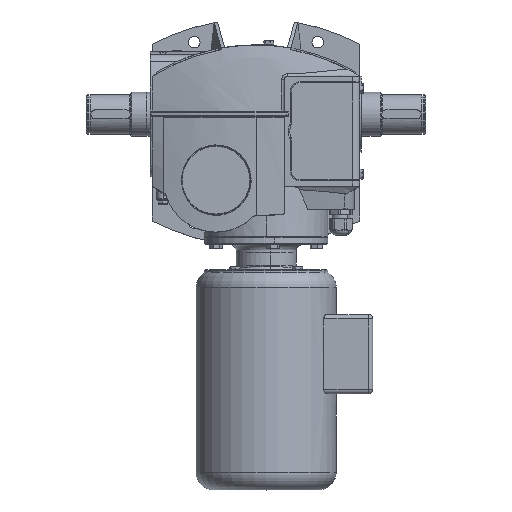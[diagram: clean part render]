
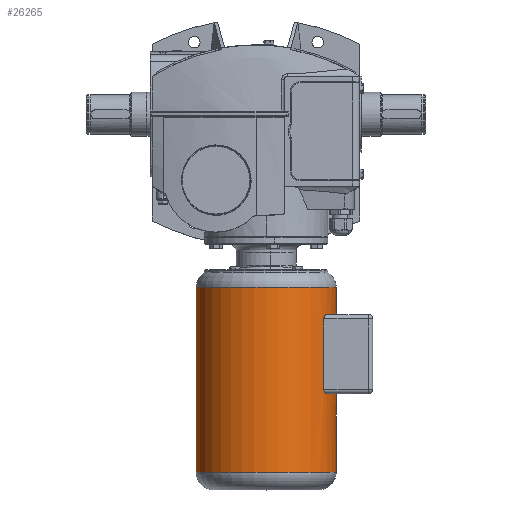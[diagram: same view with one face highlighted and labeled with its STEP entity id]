
A CAD part, top view. The second image highlights one B-rep face of the part: STEP entity #26265.
In plain terms, the highlighted cylindrical face has radius 79.5 mm (diameter 159 mm), a partial arc.
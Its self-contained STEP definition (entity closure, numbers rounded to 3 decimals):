
#683 = CARTESIAN_POINT ( 'NONE',  ( -42.088, -177.554, 67.446 ) ) ;
#1109 = CARTESIAN_POINT ( 'NONE',  ( -45., -173.362, 65.538 ) ) ;
#1932 = CARTESIAN_POINT ( 'NONE',  ( 0., -88., 79.5 ) ) ;
#3305 = CIRCLE ( 'NONE', #13877, 79.5 ) ;
#3784 = CARTESIAN_POINT ( 'NONE',  ( -43.161, -89.113, 66.764 ) ) ;
#5004 = CARTESIAN_POINT ( 'NONE',  ( -41.223, -88.112, 67.981 ) ) ;
#5530 = VERTEX_POINT ( 'NONE', #44265 ) ;
#6057 = CARTESIAN_POINT ( 'NONE',  ( -44.412, -175.377, 65.938 ) ) ;
#7287 = CARTESIAN_POINT ( 'NONE',  ( -43.85, -176.207, 66.313 ) ) ;
#7703 = CARTESIAN_POINT ( 'NONE',  ( -42.372, -177.413, 67.268 ) ) ;
#8349 = CARTESIAN_POINT ( 'NONE',  ( -45., -92.639, 65.538 ) ) ;
#9966 = CARTESIAN_POINT ( 'NONE',  ( -40.622, -88., 68.342 ) ) ;
#10944 = VERTEX_POINT ( 'NONE', #70942 ) ;
#10968 = AXIS2_PLACEMENT_3D ( 'NONE', #77953, #70540, #13978 ) ;
#10974 = DIRECTION ( 'NONE',  ( 0., 1., 0. ) ) ;
#11607 = CARTESIAN_POINT ( 'NONE',  ( -42.373, -88.588, 67.267 ) ) ;
#11639 = AXIS2_PLACEMENT_3D ( 'NONE', #13713, #58295, #38879 ) ;
#12353 = ORIENTED_EDGE ( 'NONE', *, *, #35220, .F. ) ;
#12607 = EDGE_CURVE ( 'NONE', #74780, #5530, #28949, .T. ) ;
#12655 = CARTESIAN_POINT ( 'NONE',  ( -42.904, -177.082, 66.93 ) ) ;
#12945 = DIRECTION ( 'NONE',  ( 0., -1., 0. ) ) ;
#13086 = CARTESIAN_POINT ( 'NONE',  ( -43.155, -176.892, 66.768 ) ) ;
#13314 = ORIENTED_EDGE ( 'NONE', *, *, #13897, .T. ) ;
#13713 = CARTESIAN_POINT ( 'NONE',  ( 0., 15., 0. ) ) ;
#13734 = VERTEX_POINT ( 'NONE', #43302 ) ;
#13877 = AXIS2_PLACEMENT_3D ( 'NONE', #50888, #12945, #71130 ) ;
#13897 = EDGE_CURVE ( 'NONE', #32319, #39780, #25961, .T. ) ;
#13978 = DIRECTION ( 'NONE',  ( 0., 0., 1. ) ) ;
#15643 = ORIENTED_EDGE ( 'NONE', *, *, #39740, .T. ) ;
#16118 = DIRECTION ( 'NONE',  ( 0., 1., 0. ) ) ;
#16991 = CARTESIAN_POINT ( 'NONE',  ( -44.692, -91.263, 65.749 ) ) ;
#17380 = CARTESIAN_POINT ( 'NONE',  ( -40., -88., 68.704 ) ) ;
#17405 = EDGE_CURVE ( 'NONE', #10944, #56323, #62777, .T. ) ;
#17750 = EDGE_LOOP ( 'NONE', ( #12353, #44378, #47821, #64694, #34236, #29152, #15643, #46835, #13314, #33569 ) ) ;
#19248 = CARTESIAN_POINT ( 'NONE',  ( -44.96, -173.723, 65.566 ) ) ;
#19371 = CARTESIAN_POINT ( 'NONE',  ( 0., -267., 79.5 ) ) ;
#19781 = DIRECTION ( 'NONE',  ( 0., 1., 0. ) ) ;
#21119 = FACE_OUTER_BOUND ( 'NONE', #17750, .T. ) ;
#21518 = VECTOR ( 'NONE', #38314, 1000. ) ;
#21754 = VECTOR ( 'NONE', #19781, 1000. ) ;
#22517 = CARTESIAN_POINT ( 'NONE',  ( 0., -267., 0. ) ) ;
#22613 = EDGE_CURVE ( 'NONE', #13734, #32319, #60197, .T. ) ;
#22743 = CARTESIAN_POINT ( 'NONE',  ( 0., -57.022, 79.5 ) ) ;
#22989 = DIRECTION ( 'NONE',  ( 0., 1., 0. ) ) ;
#23809 = LINE ( 'NONE', #79597, #71176 ) ;
#24102 = CARTESIAN_POINT ( 'NONE',  ( -45., 15., 65.538 ) ) ;
#24498 = DIRECTION ( 'NONE',  ( 0., 1., 0. ) ) ;
#24588 = AXIS2_PLACEMENT_3D ( 'NONE', #72673, #16118, #28895 ) ;
#25961 = LINE ( 'NONE', #32964, #21754 ) ;
#26222 = B_SPLINE_CURVE_WITH_KNOTS ( 'NONE', 3,
 ( #77299, #8349, #27720, #33498, #78116, #16991, #47495, #41716, #35553, #66952, #42131, #42525, #72717, #3784, #48311, #11607, #66527, #5004, #9966, #17380 ),
 .UNSPECIFIED., .F., .F.,
 ( 4, 2, 2, 2, 2, 2, 2, 2, 2, 4 ),
 ( 0., 0.001, 0.002, 0.002, 0.003, 0.003, 0.004, 0.005, 0.006, 0.009 ),
 .UNSPECIFIED. ) ;
#26258 = CARTESIAN_POINT ( 'NONE',  ( -44.81, -174.411, 65.668 ) ) ;
#26265 = ADVANCED_FACE ( 'NONE', ( #21119 ), #44649, .T. ) ;
#27720 = CARTESIAN_POINT ( 'NONE',  ( -44.961, -92.286, 65.565 ) ) ;
#28895 = DIRECTION ( 'NONE',  ( 0., 0., -1. ) ) ;
#28949 = B_SPLINE_CURVE_WITH_KNOTS ( 'NONE', 3,
 ( #81225, #75809, #50615, #683, #7703, #12655, #13086, #37414, #7287, #76237, #6057, #38243, #26258, #19248, #1109, #44411 ),
 .UNSPECIFIED., .F., .F.,
 ( 4, 2, 2, 2, 2, 2, 2, 4 ),
 ( 0., 0.002, 0.003, 0.004, 0.005, 0.006, 0.007, 0.008 ),
 .UNSPECIFIED. ) ;
#29152 = ORIENTED_EDGE ( 'NONE', *, *, #76054, .T. ) ;
#31162 = AXIS2_PLACEMENT_3D ( 'NONE', #22517, #10974, #67130 ) ;
#32017 = CARTESIAN_POINT ( 'NONE',  ( 0., -178., 79.5 ) ) ;
#32319 = VERTEX_POINT ( 'NONE', #1932 ) ;
#32820 = CARTESIAN_POINT ( 'NONE',  ( -40., -178., 68.704 ) ) ;
#32884 = EDGE_CURVE ( 'NONE', #56323, #62401, #75880, .T. ) ;
#32964 = CARTESIAN_POINT ( 'NONE',  ( 0., 15., 79.5 ) ) ;
#33498 = CARTESIAN_POINT ( 'NONE',  ( -44.849, -91.769, 65.641 ) ) ;
#33569 = ORIENTED_EDGE ( 'NONE', *, *, #79997, .T. ) ;
#34236 = ORIENTED_EDGE ( 'NONE', *, *, #12607, .T. ) ;
#35220 = EDGE_CURVE ( 'NONE', #10944, #43960, #23809, .T. ) ;
#35553 = CARTESIAN_POINT ( 'NONE',  ( -44.41, -90.637, 65.94 ) ) ;
#37414 = CARTESIAN_POINT ( 'NONE',  ( -43.628, -176.456, 66.46 ) ) ;
#38243 = CARTESIAN_POINT ( 'NONE',  ( -44.699, -174.744, 65.744 ) ) ;
#38314 = DIRECTION ( 'NONE',  ( 0., 1., 0. ) ) ;
#38318 = VERTEX_POINT ( 'NONE', #38749 ) ;
#38749 = CARTESIAN_POINT ( 'NONE',  ( -45., -93., 65.538 ) ) ;
#38879 = DIRECTION ( 'NONE',  ( 0., 0., 1. ) ) ;
#39740 = EDGE_CURVE ( 'NONE', #38318, #13734, #26222, .T. ) ;
#39780 = VERTEX_POINT ( 'NONE', #22743 ) ;
#41716 = CARTESIAN_POINT ( 'NONE',  ( -44.488, -90.789, 65.887 ) ) ;
#42131 = CARTESIAN_POINT ( 'NONE',  ( -44.147, -90.201, 66.116 ) ) ;
#42525 = CARTESIAN_POINT ( 'NONE',  ( -43.853, -89.796, 66.311 ) ) ;
#43302 = CARTESIAN_POINT ( 'NONE',  ( -40., -88., 68.704 ) ) ;
#43960 = VERTEX_POINT ( 'NONE', #55645 ) ;
#44265 = CARTESIAN_POINT ( 'NONE',  ( -45., -173., 65.538 ) ) ;
#44378 = ORIENTED_EDGE ( 'NONE', *, *, #17405, .T. ) ;
#44411 = CARTESIAN_POINT ( 'NONE',  ( -45., -173., 65.538 ) ) ;
#44649 = CYLINDRICAL_SURFACE ( 'NONE', #11639, 79.5 ) ;
#46527 = CIRCLE ( 'NONE', #10968, 79.5 ) ;
#46835 = ORIENTED_EDGE ( 'NONE', *, *, #22613, .T. ) ;
#47495 = CARTESIAN_POINT ( 'NONE',  ( -44.629, -91.102, 65.791 ) ) ;
#47821 = ORIENTED_EDGE ( 'NONE', *, *, #32884, .T. ) ;
#48311 = CARTESIAN_POINT ( 'NONE',  ( -42.906, -88.919, 66.929 ) ) ;
#50615 = CARTESIAN_POINT ( 'NONE',  ( -41.223, -177.887, 67.981 ) ) ;
#50888 = CARTESIAN_POINT ( 'NONE',  ( 0., -178., 0. ) ) ;
#55400 = VECTOR ( 'NONE', #24498, 1000. ) ;
#55645 = CARTESIAN_POINT ( 'NONE',  ( 0., -57.022, -79.5 ) ) ;
#56323 = VERTEX_POINT ( 'NONE', #19371 ) ;
#58295 = DIRECTION ( 'NONE',  ( 0., 1., 0. ) ) ;
#60197 = CIRCLE ( 'NONE', #24588, 79.5 ) ;
#62401 = VERTEX_POINT ( 'NONE', #32017 ) ;
#62777 = CIRCLE ( 'NONE', #31162, 79.5 ) ;
#64694 = ORIENTED_EDGE ( 'NONE', *, *, #69041, .T. ) ;
#66527 = CARTESIAN_POINT ( 'NONE',  ( -42.094, -88.449, 67.442 ) ) ;
#66952 = CARTESIAN_POINT ( 'NONE',  ( -44.24, -90.344, 66.054 ) ) ;
#67130 = DIRECTION ( 'NONE',  ( 0., 0., -1. ) ) ;
#69041 = EDGE_CURVE ( 'NONE', #62401, #74780, #3305, .T. ) ;
#69719 = CARTESIAN_POINT ( 'NONE',  ( 0., 15., 79.5 ) ) ;
#70540 = DIRECTION ( 'NONE',  ( 0., -1., 0. ) ) ;
#70942 = CARTESIAN_POINT ( 'NONE',  ( 0., -267., -79.5 ) ) ;
#71130 = DIRECTION ( 'NONE',  ( 0., 0., 1. ) ) ;
#71176 = VECTOR ( 'NONE', #22989, 1000. ) ;
#72673 = CARTESIAN_POINT ( 'NONE',  ( 0., -88., 0. ) ) ;
#72717 = CARTESIAN_POINT ( 'NONE',  ( -43.636, -89.552, 66.455 ) ) ;
#74780 = VERTEX_POINT ( 'NONE', #32820 ) ;
#75809 = CARTESIAN_POINT ( 'NONE',  ( -40.623, -178., 68.341 ) ) ;
#75880 = LINE ( 'NONE', #69719, #21518 ) ;
#76054 = EDGE_CURVE ( 'NONE', #5530, #38318, #80703, .T. ) ;
#76237 = CARTESIAN_POINT ( 'NONE',  ( -44.241, -175.669, 66.053 ) ) ;
#77299 = CARTESIAN_POINT ( 'NONE',  ( -45., -93., 65.538 ) ) ;
#77953 = CARTESIAN_POINT ( 'NONE',  ( 0., -57.022, 0. ) ) ;
#78116 = CARTESIAN_POINT ( 'NONE',  ( -44.802, -91.597, 65.673 ) ) ;
#79597 = CARTESIAN_POINT ( 'NONE',  ( 0., 15., -79.5 ) ) ;
#79997 = EDGE_CURVE ( 'NONE', #39780, #43960, #46527, .T. ) ;
#80703 = LINE ( 'NONE', #24102, #55400 ) ;
#81225 = CARTESIAN_POINT ( 'NONE',  ( -40., -178., 68.704 ) ) ;
